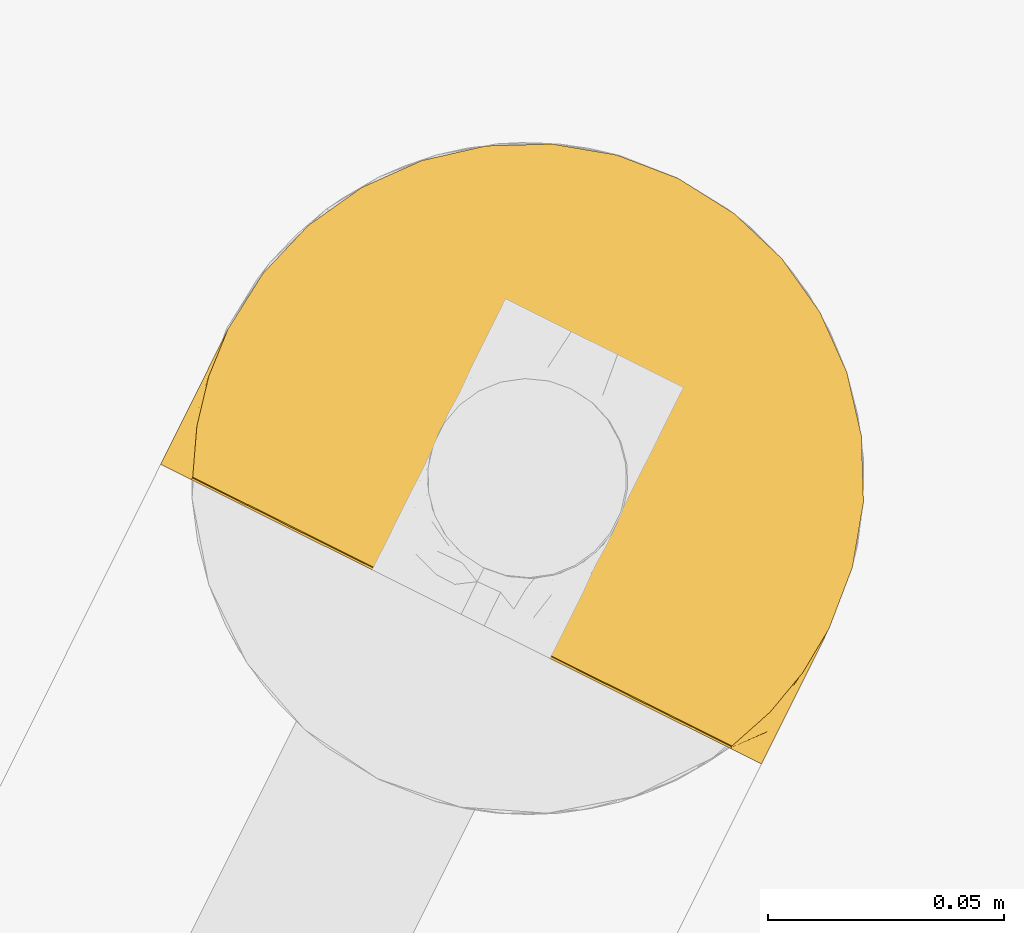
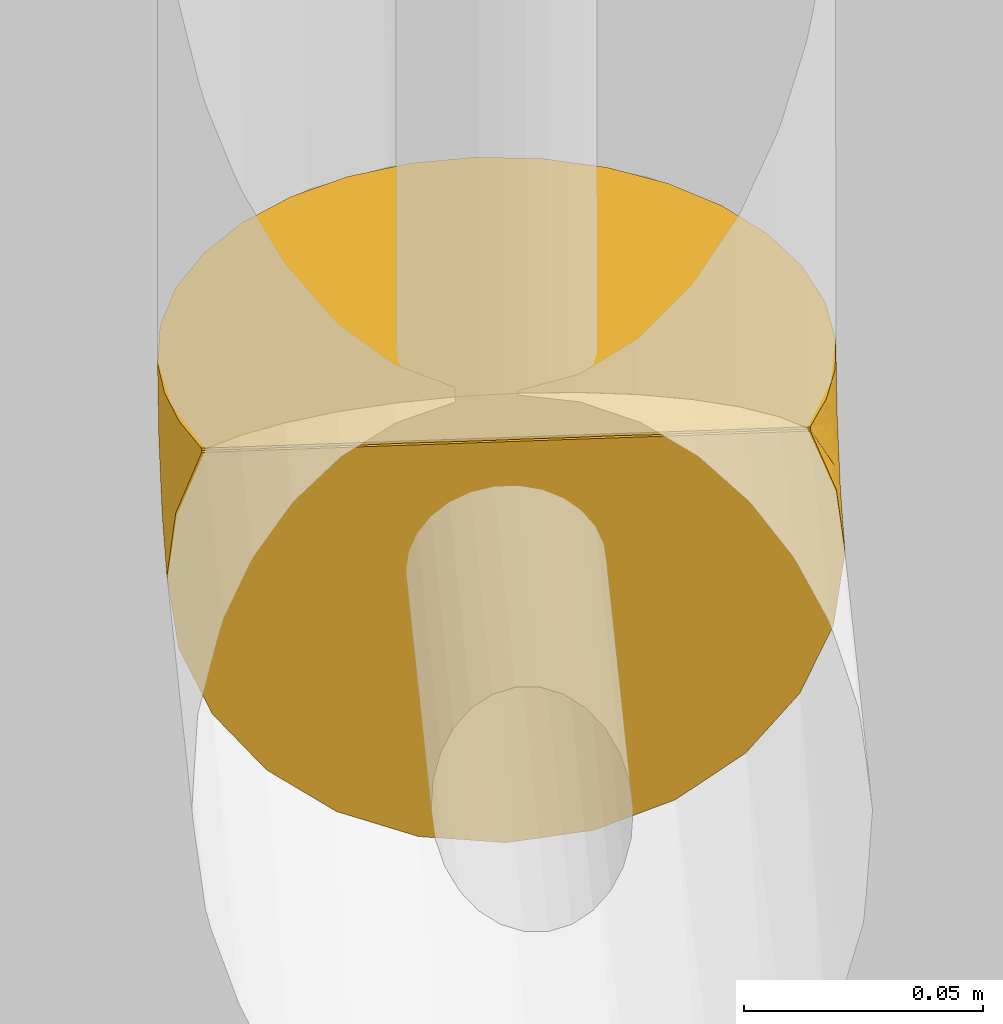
# One storey, part 20 of 47: 1 covering.
"""IFC2X3 building model written with IfcOpenShell, lengths in metres."""

from ifc_helpers import new_model, entity, si_unit, converted_unit, derived_unit, direction, frame, origin, place, context, subcontext, project, spatial, faceted_brep, element, save


model = new_model("IFC2X3")

# Units and contexts
model_context = context("Model", 3, precision=1e-05, world=origin(), true_north=direction((0.894925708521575, 0.446215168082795)))
context_of_model = context(None, 3, precision=1e-05, world=origin(), true_north=direction((0.894925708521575, 0.446215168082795)))
body_context = subcontext(model_context, "Body", "Model", "MODEL_VIEW")
ifc_project = project(units=[si_unit("LENGTHUNIT", "METRE"), si_unit("AREAUNIT", "SQUARE_METRE"), si_unit("VOLUMEUNIT", "CUBIC_METRE"), converted_unit("PLANEANGLEUNIT", "DEGREE", entity("IfcRatioMeasure", 0.0174532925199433), si_unit("PLANEANGLEUNIT", "RADIAN"), dimensions=[0, 0, 0, 0, 0, 0, 0]), si_unit("MASSUNIT", "GRAM", prefix="KILO"), si_unit("TIMEUNIT", "SECOND"), si_unit("FREQUENCYUNIT", "HERTZ"), si_unit("THERMODYNAMICTEMPERATUREUNIT", "DEGREE_CELSIUS"), derived_unit("THERMALTRANSMITTANCEUNIT", [(si_unit("MASSUNIT", "GRAM", prefix="KILO"), 1), (si_unit("THERMODYNAMICTEMPERATUREUNIT", "KELVIN"), -1), (si_unit("TIMEUNIT", "SECOND"), -3)]), derived_unit("VOLUMETRICFLOWRATEUNIT", [(si_unit("LENGTHUNIT", "METRE"), 3), (si_unit("TIMEUNIT", "SECOND"), -1)]), si_unit("ELECTRICCURRENTUNIT", "AMPERE"), si_unit("ELECTRICVOLTAGEUNIT", "VOLT"), si_unit("POWERUNIT", "WATT"), si_unit("FORCEUNIT", "NEWTON", prefix="KILO"), si_unit("ILLUMINANCEUNIT", "LUX"), si_unit("LUMINOUSFLUXUNIT", "LUMEN"), si_unit("LUMINOUSINTENSITYUNIT", "CANDELA"), si_unit("PRESSUREUNIT", "PASCAL")], contexts=[model_context, context_of_model])

# Site, building, storey
site_placement = place(None, frame((218.228324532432, 584.720189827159, 0.0), z_axis=(0.0, 0.0, 1.0), x_axis=(0.446215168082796, 0.894925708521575, 0.0)))
site = spatial("IfcSite", under=ifc_project, at=site_placement, Name="Default", CompositionType="ELEMENT")
building_placement = place(site_placement, origin())
building = spatial("IfcBuilding", under=site, at=building_placement, CompositionType="ELEMENT")
storey_placement = place(building_placement, frame((0.0, 0.0, 4.69)))
storey = spatial("IfcBuildingStorey", under=building, at=storey_placement, Name="1 - Piano Primo", CompositionType="ELEMENT", Elevation=4.69)

# Covering
covering_placement = place(storey_placement, frame((66.9353520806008, -1.84657249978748, 2.88730478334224)))
element("IfcCovering", 1, at=covering_placement, inside=storey, Name="Isolamento tubazione:Default", ObjectType="Isolamento tubazione:Default", PredefinedType="INSULATION", context=body_context, shape_type="Brep", body=[
    faceted_brep([(0.073104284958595, 0.0135879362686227, 0.104704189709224), (0.0838781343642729, 0.0224322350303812, 0.104702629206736), (0.0927189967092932, 0.0332080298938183, 0.104700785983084), (0.0992874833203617, 0.0455011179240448, 0.104698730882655), (0.103331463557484, 0.0588391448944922, 0.104696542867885), (0.104695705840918, 0.0727003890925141, 0.10469430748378), (0.103328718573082, 0.0865754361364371, 0.104692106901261), (0.0992807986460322, 0.0999157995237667, 0.104690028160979), (0.0927081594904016, 0.112208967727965, 0.104688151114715), (0.0838638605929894, 0.122982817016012, 0.104686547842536), (0.0730880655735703, 0.131823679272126, 0.10468527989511), (0.060794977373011, 0.138392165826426, 0.104684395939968), (0.0474569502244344, 0.142436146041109, 0.104683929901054), (0.0335957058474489, 0.14380038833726, 0.104683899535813), (0.0228037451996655, 0.142976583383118, 0.104684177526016), (0.0122726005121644, 0.14052763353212, 0.104684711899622), (0.0022317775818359, 0.136508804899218, 0.104685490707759), (0.0022317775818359, 0.13302664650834, 0.104686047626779), (0.0022317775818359, 0.127521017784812, 0.104686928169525), (0.0022317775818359, 0.123027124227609, 0.104687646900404), (0.00223177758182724, 0.118533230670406, 0.104688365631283), (0.0022317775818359, 0.114039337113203, 0.104689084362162), (0.0022317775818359, 0.109545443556, 0.104689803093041), (0.0022317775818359, 0.105051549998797, 0.104690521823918), (0.0022317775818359, 0.100557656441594, 0.104691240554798), (0.0022317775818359, 0.0960637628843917, 0.104691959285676), (0.00223177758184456, 0.091569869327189, 0.104692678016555), (0.00223177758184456, 0.087075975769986, 0.104693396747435), (0.0022317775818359, 0.0825820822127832, 0.104694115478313), (0.0022317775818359, 0.0780881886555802, 0.104694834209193), (0.0022317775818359, 0.0735942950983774, 0.10469555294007), (0.0022317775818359, 0.0691004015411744, 0.10469627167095), (0.0022317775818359, 0.0646065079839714, 0.104696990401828), (0.00223177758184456, 0.0611243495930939, 0.104697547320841), (0.00223177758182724, 0.0576421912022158, 0.104698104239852), (0.0022317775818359, 0.0541600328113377, 0.104698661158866), (0.00223177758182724, 0.0506778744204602, 0.104699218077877), (0.00223177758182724, 0.0471957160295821, 0.104699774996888), (0.0022317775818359, 0.0437135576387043, 0.104700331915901), (0.0022317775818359, 0.0402313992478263, 0.104700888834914), (0.00223177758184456, 0.0367492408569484, 0.104701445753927), (0.0022317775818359, 0.0332670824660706, 0.104702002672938), (0.00223177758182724, 0.0297849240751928, 0.10470255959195), (0.0022317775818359, 0.0263027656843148, 0.104703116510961), (0.0022317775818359, 0.0228206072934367, 0.104703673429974), (0.00223177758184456, 0.0193384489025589, 0.104704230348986), (0.00223177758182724, 0.0158562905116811, 0.104704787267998), (0.0022317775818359, 0.0123741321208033, 0.104705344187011), (0.0022317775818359, 0.00889197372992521, 0.104705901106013), (0.0122803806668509, 0.0048706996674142, 0.104706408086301), (0.0228118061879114, 0.0024229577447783, 0.104706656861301), (0.0335957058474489, 0.00160039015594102, 0.104706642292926), (0.0474707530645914, 0.00296737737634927, 0.104706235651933), (0.0608111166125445, 0.00701529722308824, 0.104705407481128), (0.0015952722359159, 0.136508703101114, 0.104048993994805), (0.0015952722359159, 0.141950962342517, 0.0887843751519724), (0.0015952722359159, 0.143795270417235, 0.0726838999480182), (0.0015952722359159, 0.141369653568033, 0.0542822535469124), (0.0015952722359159, 0.134263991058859, 0.0371354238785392), (0.0015952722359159, 0.122962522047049, 0.0224119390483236), (0.0015952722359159, 0.108235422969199, 0.011115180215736), (0.0015952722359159, 0.0910863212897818, 0.00401500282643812), (0.0015952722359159, 0.0726838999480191, 0.00159527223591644), (0.0015952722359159, 0.0542822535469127, 0.00402088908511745), (0.0015952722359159, 0.03713542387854, 0.0111265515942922), (0.0015952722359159, 0.0224119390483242, 0.0224280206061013), (0.0015952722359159, 0.011115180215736, 0.0371551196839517), (0.0015952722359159, 0.00401500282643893, 0.0543042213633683), (0.0015952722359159, 0.00159527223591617, 0.0727066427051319), (0.0015952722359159, 0.00344473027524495, 0.0888065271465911), (0.0015952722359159, 0.00889187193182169, 0.104069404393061), (0.0015952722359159, 0.0123740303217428, 0.104068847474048), (0.0015952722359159, 0.0168679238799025, 0.10406812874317), (0.0015952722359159, 0.0208559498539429, 0.104067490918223), (0.0015952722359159, 0.0248439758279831, 0.104066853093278), (0.0015952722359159, 0.0288320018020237, 0.104066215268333), (0.0015952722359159, 0.0328200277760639, 0.104065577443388), (0.0015952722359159, 0.0368080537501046, 0.104064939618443), (0.0015952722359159, 0.0407960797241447, 0.104064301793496), (0.0015952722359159, 0.0447841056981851, 0.10406366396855), (0.0015952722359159, 0.0487721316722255, 0.104063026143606), (0.0015952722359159, 0.0527601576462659, 0.10406238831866), (0.0015952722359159, 0.0567481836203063, 0.104061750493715), (0.0015952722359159, 0.0607362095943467, 0.104061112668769), (0.0015952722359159, 0.0647242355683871, 0.104060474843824), (0.0015952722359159, 0.0687122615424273, 0.104059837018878), (0.0015952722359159, 0.0727002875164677, 0.104059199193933), (0.0015952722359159, 0.0771941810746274, 0.104058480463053), (0.0015952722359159, 0.0816880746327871, 0.104057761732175), (0.0015952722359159, 0.0861819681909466, 0.104057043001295), (0.0015952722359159, 0.0906758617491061, 0.104056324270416), (0.0015952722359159, 0.0951697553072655, 0.104055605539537), (0.0015952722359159, 0.0996636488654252, 0.10405488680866), (0.0015952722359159, 0.104157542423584, 0.104054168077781), (0.0015952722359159, 0.108651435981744, 0.104053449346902), (0.0015952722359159, 0.112133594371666, 0.104052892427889), (0.0015952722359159, 0.115615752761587, 0.104052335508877), (0.0015952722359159, 0.119097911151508, 0.104051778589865), (0.0015952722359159, 0.122580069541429, 0.104051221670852), (0.0015952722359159, 0.12606222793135, 0.104050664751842), (0.0015952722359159, 0.129544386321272, 0.10405010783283), (0.00159527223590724, 0.133026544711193, 0.104049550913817), (0.00205536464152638, 0.027167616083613, 0.104263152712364), (0.00201674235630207, 0.0228499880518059, 0.104226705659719), (0.00203217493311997, 0.105644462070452, 0.104227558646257), (0.00202231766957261, 0.101910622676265, 0.104219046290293), (0.00204497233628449, 0.0867485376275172, 0.104243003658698), (0.00204893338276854, 0.0668533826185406, 0.104250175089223), (0.00204229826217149, 0.0708399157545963, 0.104242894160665), (0.00204534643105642, 0.131285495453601, 0.104236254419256), (0.00201297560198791, 0.127425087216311, 0.104206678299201), (0.0020453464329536, 0.00889190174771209, 0.104255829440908), (0.00204534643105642, 0.0141151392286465, 0.104254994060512), (0.0020453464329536, 0.136508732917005, 0.104235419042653), (0.00202300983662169, 0.042790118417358, 0.104229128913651), (0.00198794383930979, 0.124072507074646, 0.104186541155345), (0.00205780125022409, 0.120780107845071, 0.104250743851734), (0.00202889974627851, 0.110392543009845, 0.104223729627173), (0.0020652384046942, 0.0524188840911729, 0.104269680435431), (0.00204237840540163, 0.0628681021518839, 0.104244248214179), (0.00203217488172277, 0.0831749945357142, 0.1042311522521), (0.00202231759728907, 0.0794411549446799, 0.104222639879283), (0.00202448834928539, 0.0747811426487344, 0.104225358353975), (0.00204876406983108, 0.0979319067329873, 0.104245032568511), (0.00206512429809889, 0.0939959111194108, 0.104262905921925), (0.00197981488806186, 0.113681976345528, 0.104181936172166), (0.00207579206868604, 0.048538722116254, 0.104282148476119), (0.00201172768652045, 0.0309005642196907, 0.104221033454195), (0.00206937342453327, 0.0181110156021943, 0.104279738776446), (0.00218889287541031, 0.136508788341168, 0.104581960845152), (0.00214600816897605, 0.136508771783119, 0.104478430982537), (0.00209567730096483, 0.136508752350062, 0.104356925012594), (0.0020956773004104, 0.00889192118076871, 0.10437733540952), (0.00214600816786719, 0.00889194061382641, 0.104498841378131), (0.00218889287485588, 0.0088919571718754, 0.104602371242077), (0.00169880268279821, 0.00889187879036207, 0.104112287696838), (0.00180233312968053, 0.00889188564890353, 0.104155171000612), (0.00192383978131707, 0.00889189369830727, 0.104205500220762), (0.00192383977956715, 0.1365087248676, 0.104185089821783), (0.00180233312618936, 0.136508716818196, 0.104134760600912), (0.00169880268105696, 0.136508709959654, 0.104091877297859), (0.00205344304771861, 0.0346357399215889, 0.104259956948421), (0.00204127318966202, 0.0387009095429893, 0.104247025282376), (0.00202561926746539, 0.0587422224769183, 0.104228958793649), (0.00205106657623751, 0.116933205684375, 0.104244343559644), (0.00205522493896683, 0.0903228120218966, 0.104252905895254), (0.00412513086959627, 0.140128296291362, 0.0955791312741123), (0.012636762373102, 0.143795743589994, 0.0756424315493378), (0.00840319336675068, 0.141951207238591, 0.0903155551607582), (0.0175953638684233, 0.143795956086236, 0.0769710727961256), (0.00780390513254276, 0.139672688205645, 0.0994365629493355), (0.00781937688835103, 0.140279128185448, 0.096978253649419), (0.00597646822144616, 0.142771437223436, 0.0852048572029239), (0.0143636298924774, 0.142153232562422, 0.0937772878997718), (0.0166313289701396, 0.1419517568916, 0.0995262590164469), (0.0244811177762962, 0.143357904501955, 0.0971593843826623), (0.0293083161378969, 0.143797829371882, 0.088683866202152), (0.0211837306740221, 0.143123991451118, 0.0941772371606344), (0.0316927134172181, 0.14379925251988, 0.0975821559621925), (0.0314520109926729, 0.14379910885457, 0.096683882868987), (0.0234518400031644, 0.143796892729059, 0.0828274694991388), (0.0125439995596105, 0.141112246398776, 0.0983717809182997), (0.0136871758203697, 0.142777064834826, 0.0887591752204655), (0.00495039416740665, 0.139425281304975, 0.0980363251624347), (0.00869704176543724, 0.143795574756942, 0.0745867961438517), (0.00711601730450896, 0.143795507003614, 0.0741631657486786), (0.0896375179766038, 0.0893123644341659, 0.0549338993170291), (0.0996492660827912, 0.072695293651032, 0.0728348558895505), (0.085004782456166, 0.072690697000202, 0.0440941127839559), (0.0232157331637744, 0.142049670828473, 0.0622206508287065), (0.0322780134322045, 0.141371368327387, 0.0646977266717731), (0.0242535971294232, 0.13837947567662, 0.0499829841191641), (0.0210800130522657, 0.129096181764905, 0.0319685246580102), (0.0409576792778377, 0.129771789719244, 0.0415633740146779), (0.0403759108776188, 0.115970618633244, 0.0252406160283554), (0.0118768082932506, 0.138378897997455, 0.0463754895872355), (0.0146615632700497, 0.142258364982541, 0.0598560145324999), (0.0866826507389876, 0.106217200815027, 0.0631156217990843), (0.0717543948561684, 0.0958549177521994, 0.0345319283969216), (0.0334547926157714, 0.0726847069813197, 0.00664128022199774), (0.0223828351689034, 0.0860494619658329, 0.00500487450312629), (0.0476941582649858, 0.0874890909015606, 0.0142182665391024), (0.0982939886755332, 0.0933409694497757, 0.0790641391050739), (0.0661228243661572, 0.135408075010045, 0.0933967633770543), (0.052898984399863, 0.140739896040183, 0.0929439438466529), (0.0458978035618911, 0.141486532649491, 0.0815543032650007), (0.0289345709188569, 0.0998941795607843, 0.010906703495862), (0.0198677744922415, 0.115969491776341, 0.0181898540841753), (0.060393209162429, 0.127659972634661, 0.0548182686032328), (0.0535429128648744, 0.136402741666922, 0.0680486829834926), (0.0747431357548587, 0.122565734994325, 0.0661551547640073), (0.0400663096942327, 0.141414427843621, 0.0723646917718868), (0.0626159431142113, 0.135406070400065, 0.0808587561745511), (0.0856487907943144, 0.117809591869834, 0.0824118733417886), (0.0751852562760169, 0.128218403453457, 0.0841037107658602), (0.0621957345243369, 0.0726870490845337, 0.0212853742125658), (0.0484394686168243, 0.102572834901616, 0.0203070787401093), (0.0931594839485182, 0.10621955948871, 0.0805168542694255), (0.0705622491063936, 0.113399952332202, 0.0464110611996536), (0.0572911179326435, 0.112022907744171, 0.0324347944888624), (0.0462220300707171, 0.134920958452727, 0.0555283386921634), (0.0316927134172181, 0.00159925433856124, 0.0976048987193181), (0.0525261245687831, 0.00466145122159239, 0.0913815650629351), (0.0217173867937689, 0.0598967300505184, 0.00476241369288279), (0.099202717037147, 0.0520672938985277, 0.0827638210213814), (0.0373981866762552, 0.0454770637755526, 0.013809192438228), (0.0419312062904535, 0.0594923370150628, 0.0111583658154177), (0.0556262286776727, 0.0504617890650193, 0.0211028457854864), (0.0176207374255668, 0.0454761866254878, 0.00833521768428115), (0.0860410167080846, 0.0282578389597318, 0.0817796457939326), (0.0901574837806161, 0.0391878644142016, 0.0711346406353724), (0.0949742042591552, 0.039190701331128, 0.0888787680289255), (0.0717304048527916, 0.049425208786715, 0.0345633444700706), (0.0189431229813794, 0.00285483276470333, 0.0628250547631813), (0.0175953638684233, 0.00159595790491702, 0.0769938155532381), (0.0126367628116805, 0.00159574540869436, 0.0756651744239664), (0.00959531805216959, 0.00159561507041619, 0.0748502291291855), (0.0307271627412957, 0.00878527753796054, 0.0486602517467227), (0.018383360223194, 0.00700347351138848, 0.0479268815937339), (0.0353025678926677, 0.0162821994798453, 0.0373890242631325), (0.0239912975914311, 0.0294037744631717, 0.0191785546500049), (0.0175584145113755, 0.0162812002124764, 0.0311332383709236), (0.0485715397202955, 0.0306979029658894, 0.0286668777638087), (0.0464811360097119, 0.00621890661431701, 0.0692136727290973), (0.047397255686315, 0.00429462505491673, 0.0813782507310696), (0.0366848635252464, 0.00255973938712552, 0.0787179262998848), (0.0691003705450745, 0.0275941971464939, 0.0498714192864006), (0.0747877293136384, 0.0222608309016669, 0.0674740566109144), (0.0585946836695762, 0.014779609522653, 0.0587035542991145), (0.0761975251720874, 0.0177423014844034, 0.085186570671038), (0.0650715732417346, 0.0099967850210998, 0.0884550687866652), (0.0606791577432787, 0.00999508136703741, 0.076377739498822), (0.0903998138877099, 0.0554005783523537, 0.0566588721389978), (0.081216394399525, 0.0413796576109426, 0.0513651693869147), (0.0314520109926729, 0.00159911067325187, 0.0967066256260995), (0.0293083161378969, 0.00159783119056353, 0.0887066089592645), (0.0691055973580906, 0.0373784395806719, 0.0397069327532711), (0.0101596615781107, 0.00286924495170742, 0.0601117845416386), (0.0523109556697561, 0.0202335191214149, 0.042840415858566), (0.045871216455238, 0.0116072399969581, 0.0525884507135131), (0.0351861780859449, 0.00568864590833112, 0.0601716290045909), (0.0234518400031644, 0.00159689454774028, 0.0828502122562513), (0.00711601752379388, 0.00159550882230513, 0.0741859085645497), (0.00604682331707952, 0.00212206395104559, 0.0817615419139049), (0.00913570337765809, 0.00583593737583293, 0.10261133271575), (0.00967502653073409, 0.0053767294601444, 0.100444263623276), (0.0166379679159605, 0.00344552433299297, 0.0995432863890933), (0.0120140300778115, 0.00201145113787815, 0.0827167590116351), (0.00764016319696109, 0.00521314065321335, 0.097221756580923), (0.0078022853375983, 0.00573121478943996, 0.099476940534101), (0.00840319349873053, 0.00344497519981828, 0.090337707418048), (0.016849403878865, 0.00308237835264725, 0.0960229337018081), (0.0143640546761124, 0.00324328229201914, 0.0937945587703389), (0.0137438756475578, 0.00260161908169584, 0.0886995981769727), (0.00443457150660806, 0.00420101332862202, 0.0920825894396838)], [[[0, 1, 2, 3, 4, 5, 6, 7, 8, 9, 10, 11, 12, 13, 14, 15, 16, 17, 18, 19, 20, 21, 22, 23, 24, 25, 26, 27, 28, 29, 30, 31, 32, 33, 34, 35, 36, 37, 38, 39, 40, 41, 42, 43, 44, 45, 46, 47, 48, 49, 50, 51, 52, 53]], [[54, 55, 56, 57, 58, 59, 60, 61, 62, 63, 64, 65, 66, 67, 68, 69, 70, 71, 72, 73, 74, 75, 76, 77, 78, 79, 80, 81, 82, 83, 84, 85, 86, 87, 88, 89, 90, 91, 92, 93, 94, 95, 96, 97, 98, 99, 100, 101]], [[102, 74, 103]], [[23, 104, 105]], [[90, 89, 106]], [[107, 31, 108]], [[109, 100, 110]], [[32, 31, 107]], [[111, 47, 46, 112]], [[17, 113, 109, 18]], [[100, 109, 101]], [[112, 72, 71]], [[38, 37, 114, 39]], [[19, 115, 116]], [[117, 94, 104]], [[80, 118, 82, 81]], [[119, 32, 107]], [[28, 120, 121]], [[108, 122, 86]], [[110, 18, 109]], [[108, 31, 30]], [[107, 108, 85]], [[121, 29, 28]], [[24, 123, 25]], [[93, 92, 105]], [[124, 91, 90]], [[21, 125, 117]], [[126, 36, 118]], [[102, 42, 127]], [[101, 109, 113]], [[71, 111, 112]], [[112, 46, 128]], [[73, 128, 103]], [[17, 16, 129, 130, 131, 113]], [[47, 111, 132, 133, 134, 48]], [[71, 70, 135, 136, 137, 111]], [[101, 113, 138, 139, 140, 54]], [[72, 112, 128]], [[103, 74, 73]], [[24, 23, 105]], [[128, 45, 103]], [[73, 72, 128]], [[19, 116, 20]], [[110, 99, 115]], [[115, 19, 18]], [[76, 127, 141]], [[142, 114, 78]], [[95, 125, 96]], [[127, 76, 75]], [[102, 103, 43]], [[103, 45, 44, 43]], [[119, 143, 33]], [[85, 84, 107]], [[143, 118, 35]], [[84, 119, 107]], [[86, 85, 108]], [[87, 121, 88]], [[30, 122, 108]], [[122, 87, 86]], [[30, 29, 122]], [[121, 87, 122]], [[34, 33, 143, 35]], [[83, 143, 119]], [[82, 143, 83]], [[119, 84, 83]], [[143, 82, 118]], [[35, 118, 36]], [[126, 114, 37]], [[41, 40, 141]], [[80, 126, 118]], [[79, 114, 126]], [[78, 114, 79]], [[126, 80, 79]], [[142, 39, 114]], [[40, 142, 141]], [[142, 77, 141]], [[42, 41, 127]], [[75, 74, 102]], [[76, 141, 77]], [[142, 78, 77]], [[127, 41, 141]], [[102, 127, 75]], [[116, 97, 144]], [[144, 20, 116]], [[98, 116, 115]], [[95, 94, 117]], [[22, 21, 117]], [[21, 20, 144]], [[96, 125, 144]], [[125, 95, 117]], [[23, 22, 104]], [[37, 36, 126]], [[110, 100, 99]], [[104, 93, 105]], [[124, 123, 91]], [[92, 123, 105]], [[105, 123, 24]], [[92, 91, 123]], [[124, 25, 123]], [[124, 26, 25]], [[145, 26, 124]], [[93, 104, 94]], [[117, 104, 22]], [[120, 88, 121]], [[29, 121, 122]], [[106, 145, 90]], [[89, 88, 120]], [[145, 124, 90]], [[120, 28, 27]], [[145, 27, 26]], [[106, 27, 145]], [[33, 32, 119]], [[128, 46, 45]], [[144, 125, 21]], [[96, 144, 97]], [[116, 98, 97]], [[142, 40, 39]], [[98, 115, 99]], [[18, 110, 115]], [[43, 42, 102]], [[106, 120, 27]], [[120, 106, 89]], [[54, 140, 139, 146]], [[147, 148, 149]], [[113, 150, 151]], [[55, 152, 56]], [[151, 138, 113]], [[129, 16, 15]], [[151, 150, 153]], [[130, 129, 154]], [[154, 129, 15]], [[155, 156, 157]], [[14, 13, 158, 159]], [[159, 155, 14]], [[160, 153, 157]], [[153, 150, 161]], [[151, 162, 148]], [[15, 14, 154]], [[146, 152, 55]], [[153, 161, 157]], [[163, 146, 139]], [[152, 146, 148]], [[54, 146, 55]], [[148, 147, 152]], [[152, 147, 164, 165, 56]], [[163, 139, 138]], [[162, 151, 153]], [[163, 151, 148]], [[153, 160, 162]], [[149, 148, 162]], [[151, 163, 138]], [[149, 162, 160]], [[146, 163, 148]], [[161, 130, 154]], [[161, 131, 130]], [[150, 113, 131]], [[131, 161, 150]], [[157, 161, 154]], [[155, 157, 154]], [[157, 156, 160]], [[14, 155, 154]], [[156, 155, 159]], [[166, 167, 168]], [[169, 170, 171]], [[172, 173, 174]], [[171, 175, 176]], [[177, 166, 178]], [[179, 180, 181]], [[6, 167, 182]], [[7, 6, 182]], [[183, 184, 11]], [[185, 156, 159, 158]], [[186, 60, 187]], [[61, 180, 62]], [[188, 189, 190]], [[60, 186, 61]], [[58, 175, 172]], [[158, 13, 12]], [[60, 59, 187]], [[185, 191, 156]], [[192, 189, 185]], [[180, 61, 186]], [[193, 9, 8]], [[194, 9, 193]], [[185, 158, 184]], [[184, 12, 11]], [[58, 172, 59]], [[178, 168, 195]], [[196, 181, 186]], [[158, 12, 184]], [[192, 194, 190]], [[197, 182, 177]], [[197, 8, 7]], [[182, 166, 177]], [[58, 57, 175]], [[188, 190, 198]], [[6, 5, 167]], [[193, 197, 177]], [[194, 192, 183]], [[184, 192, 185]], [[188, 199, 173]], [[10, 183, 11]], [[57, 56, 165, 164]], [[181, 195, 179]], [[173, 172, 171]], [[187, 172, 174]], [[189, 192, 190]], [[160, 156, 191]], [[176, 169, 171]], [[160, 170, 149]], [[189, 188, 200]], [[10, 9, 194]], [[184, 183, 192]], [[194, 183, 10]], [[194, 193, 190]], [[193, 177, 190]], [[198, 190, 177]], [[177, 178, 198]], [[178, 196, 199]], [[200, 171, 170]], [[199, 188, 198]], [[167, 166, 182]], [[178, 166, 168]], [[172, 187, 59]], [[186, 187, 174]], [[200, 188, 173]], [[191, 185, 189]], [[171, 200, 173]], [[191, 200, 170]], [[200, 191, 189]], [[160, 191, 170]], [[176, 57, 164]], [[172, 175, 171]], [[57, 176, 175]], [[176, 164, 147, 149]], [[176, 149, 169]], [[149, 170, 169]], [[196, 186, 174]], [[178, 195, 181]], [[199, 196, 174]], [[178, 181, 196]], [[173, 199, 174]], [[178, 199, 198]], [[8, 197, 193]], [[7, 182, 197]], [[181, 180, 186]], [[62, 180, 179]], [[52, 201, 202]], [[62, 179, 203]], [[3, 204, 4]], [[205, 203, 206]], [[206, 207, 205]], [[208, 203, 205]], [[209, 210, 211]], [[212, 195, 168]], [[213, 214, 215, 216]], [[217, 218, 219]], [[64, 220, 65]], [[221, 218, 66]], [[222, 219, 220]], [[221, 66, 65]], [[220, 64, 208]], [[223, 224, 225]], [[226, 227, 228]], [[229, 230, 231]], [[204, 232, 167]], [[233, 232, 210]], [[1, 0, 229]], [[1, 229, 209]], [[233, 212, 232]], [[204, 3, 211]], [[5, 4, 167]], [[63, 208, 64]], [[167, 4, 204]], [[52, 51, 201]], [[230, 202, 231]], [[2, 1, 209]], [[230, 0, 53]], [[227, 210, 209]], [[224, 223, 231]], [[53, 52, 202]], [[66, 218, 67]], [[226, 233, 227]], [[204, 210, 232]], [[224, 201, 234, 235]], [[168, 167, 232]], [[2, 211, 3]], [[233, 236, 212]], [[218, 213, 237]], [[212, 168, 232]], [[219, 222, 238]], [[239, 223, 240]], [[222, 220, 205]], [[221, 220, 219]], [[222, 205, 207]], [[238, 226, 228]], [[213, 240, 214]], [[67, 237, 68]], [[204, 211, 210]], [[209, 211, 2]], [[209, 229, 227]], [[229, 231, 227]], [[228, 227, 231]], [[223, 228, 231]], [[239, 219, 238]], [[224, 231, 202]], [[225, 240, 223]], [[220, 221, 65]], [[214, 240, 241]], [[218, 221, 219]], [[237, 213, 216]], [[213, 218, 217]], [[237, 216, 242, 68]], [[218, 237, 67]], [[201, 224, 202]], [[225, 224, 235]], [[235, 241, 225]], [[240, 225, 241]], [[227, 233, 210]], [[236, 233, 226]], [[238, 236, 226]], [[207, 236, 222]], [[203, 208, 63]], [[220, 208, 205]], [[62, 203, 63]], [[203, 179, 206]], [[179, 195, 206]], [[207, 195, 212]], [[195, 207, 206]], [[207, 212, 236]], [[238, 222, 236]], [[239, 238, 228]], [[223, 239, 228]], [[239, 240, 217]], [[0, 230, 229]], [[53, 202, 230]], [[239, 217, 219]], [[213, 217, 240]], [[243, 68, 242, 216, 215]], [[244, 245, 246]], [[214, 247, 215]], [[111, 248, 249]], [[137, 136, 250]], [[246, 50, 49]], [[246, 245, 251]], [[49, 244, 246]], [[246, 234, 50]], [[241, 252, 253]], [[132, 245, 133]], [[250, 247, 253]], [[235, 234, 251]], [[49, 134, 244]], [[69, 254, 70]], [[249, 132, 111]], [[49, 48, 134]], [[133, 244, 134]], [[245, 244, 133]], [[245, 249, 251]], [[254, 69, 243]], [[247, 243, 215]], [[111, 137, 248]], [[241, 253, 214]], [[250, 254, 243]], [[250, 243, 247]], [[68, 243, 69]], [[252, 241, 235]], [[253, 247, 214]], [[248, 250, 253]], [[252, 249, 248]], [[250, 248, 137]], [[252, 248, 253]], [[250, 136, 254]], [[254, 136, 135, 70]], [[252, 235, 251]], [[50, 234, 201, 51]], [[251, 249, 252]], [[132, 249, 245]], [[251, 234, 246]]]),
])

save(model, "model.ifc")
